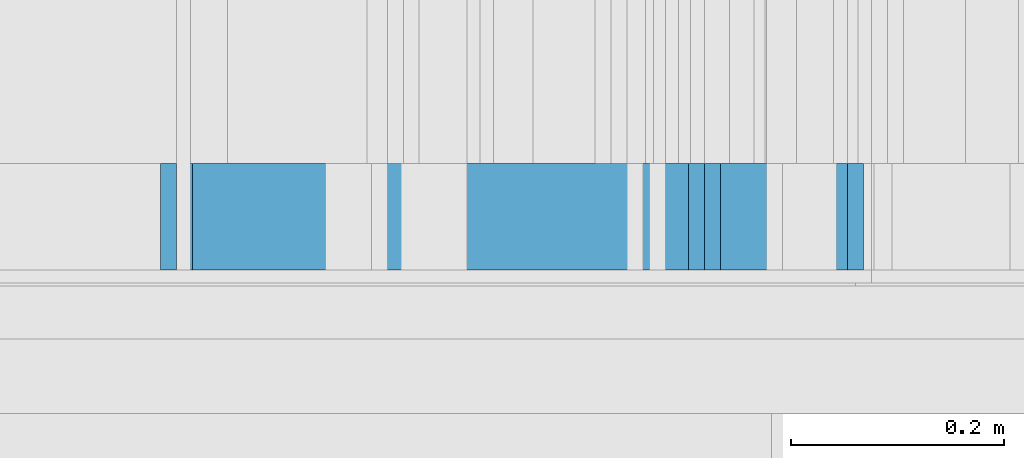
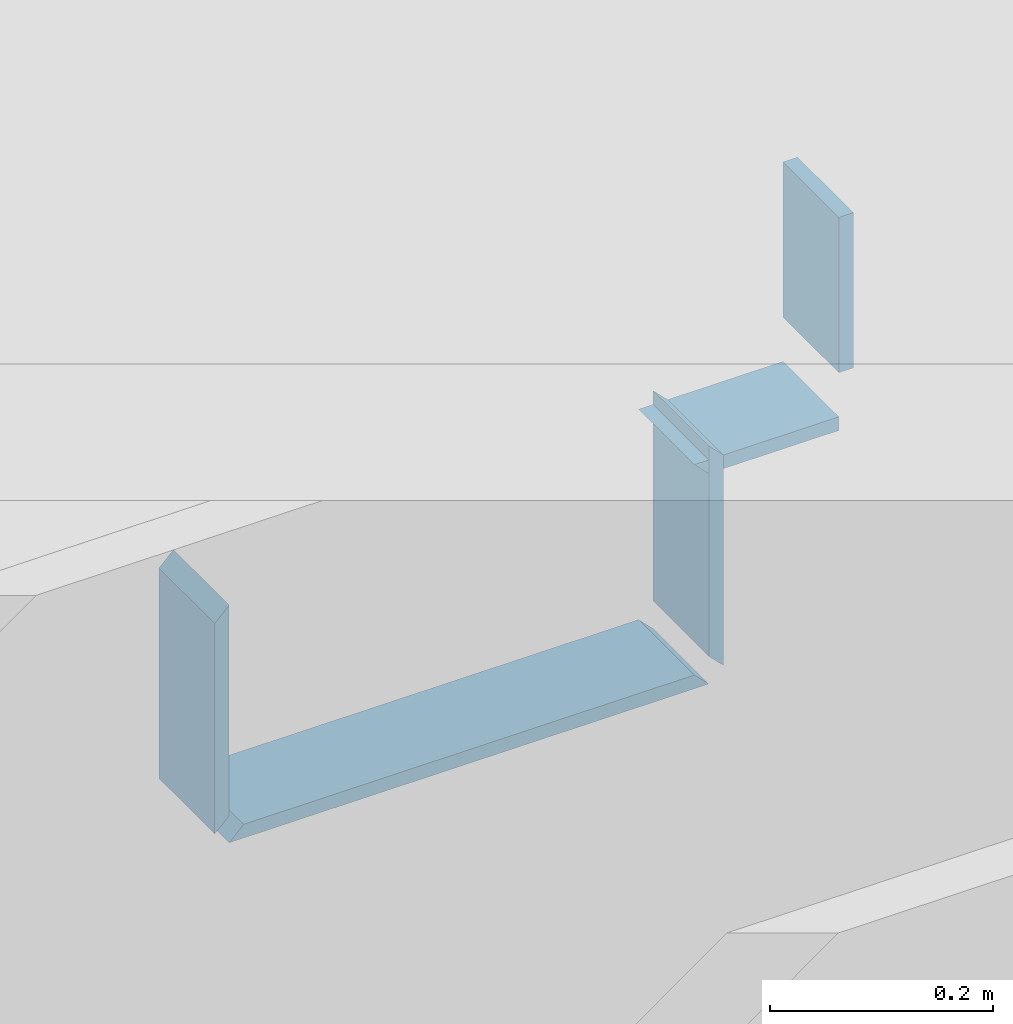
# One storey, part 180 of 583: 5 building element parts, 5 elements without a shape of their own.
"""IFC2X3 building model written with IfcOpenShell, lengths in metres."""

import ifcopenshell
import ifcopenshell.guid

model = None  # the IFC model being written
_history = None  # IfcOwnerHistory: only IFC2X3 demands one
_inside = {}  # id of a spatial element -> (the spatial element, [elements in it])
_under = {}  # id of a project, library or spatial element -> (it, [spatial elements below it])
_declared = {}  # id of a project -> (the project, [libraries it declares])
_typed = {}  # id of a type object -> (the type object, [elements of that type])
_made_of = {}  # id of a material, layer set ... -> (it, [elements and type objects made of it])


def new_model(schema):
    """Start an empty IFC model of exactly this schema.

    Asked for "IFC4X3", IfcOpenShell would pick the latest addendum, in which some entities
    have other attributes; the version numbers below select the first issue.
    IFC2X3 requires an IfcOwnerHistory on every rooted entity: one is made here for all.
    """
    global model, _history
    if schema == "IFC4X3":
        model = ifcopenshell.file(schema_version=(4, 3, 0, 0))
    else:
        model = ifcopenshell.file(schema=schema)
    _inside.clear()
    _under.clear()
    _declared.clear()
    _typed.clear()
    _made_of.clear()
    _history = None
    if model.schema == "IFC2X3":
        org = make("IfcOrganization", Name="unknown")
        user = make(
            "IfcPersonAndOrganization",
            ThePerson=make("IfcPerson", FamilyName="unknown"),
            TheOrganization=org,
        )
        app = make(
            "IfcApplication",
            ApplicationDeveloper=org,
            Version="unknown",
            ApplicationFullName="unknown",
            ApplicationIdentifier="unknown",
        )
        _history = make(
            "IfcOwnerHistory",
            OwningUser=user,
            OwningApplication=app,
            ChangeAction="ADDED",
            CreationDate=0,
        )
    return model


def make(cls, **values):
    """One entity of the class cls with the attributes given. An attribute that is None is left unset."""
    return model.create_entity(
        cls, **{name: value for name, value in values.items() if value is not None}
    )


def entity(cls, *values):
    """Any entity or typed value of the class cls, its attributes in the order of the schema. None: left unset."""
    e = model.create_entity(cls)
    for i, value in enumerate(values):
        if value is not None:
            e[i] = value
    return e


def rooted(cls, **values):
    """An entity with a GlobalId (a new one), such as an element, a storey or a relation."""
    return make(cls, GlobalId=ifcopenshell.guid.new(), OwnerHistory=_history, **values)


def si_unit(unit_type, name, prefix=None):
    """IfcSIUnit, for example si_unit("LENGTHUNIT", "METRE", prefix="MILLI")."""
    return make("IfcSIUnit", UnitType=unit_type, Prefix=prefix, Name=name)


def converted_unit(unit_type, name, factor, base, dimensions=None, offset=None):
    """IfcConversionBasedUnit, such as the inch: factor (a typed value) times the base unit."""
    return make(
        "IfcConversionBasedUnit"
        if offset is None
        else "IfcConversionBasedUnitWithOffset",
        ConversionOffset=offset,
        Dimensions=None
        if dimensions is None
        else entity("IfcDimensionalExponents", *dimensions),
        UnitType=unit_type,
        Name=name,
        ConversionFactor=make(
            "IfcMeasureWithUnit", ValueComponent=factor, UnitComponent=base
        ),
    )


def derived_unit(unit_type, elements):
    """IfcDerivedUnit: a product of units, each with its exponent."""
    return make(
        "IfcDerivedUnit",
        Elements=[
            make("IfcDerivedUnitElement", Unit=unit, Exponent=power)
            for unit, power in elements
        ],
        UnitType=unit_type,
    )


def money_unit(currency):
    """IfcMonetaryUnit."""
    return make("IfcMonetaryUnit", Currency=currency)


def assignment(units):
    """IfcUnitAssignment: the units of a project."""
    return None if units is None else make("IfcUnitAssignment", Units=units)


def point(xyz):
    """IfcCartesianPoint."""
    return None if xyz is None else make("IfcCartesianPoint", Coordinates=xyz)


def direction(xyz):
    """IfcDirection."""
    return None if xyz is None else make("IfcDirection", DirectionRatios=xyz)


def frame(location, z_axis=None, x_axis=None):
    """IfcAxis2Placement3D, a coordinate frame: its origin and axes. An axis left out is left unset."""
    return make(
        "IfcAxis2Placement3D",
        Location=point(location),
        Axis=direction(z_axis),
        RefDirection=direction(x_axis),
    )


def frame_2d(location, x_axis=None):
    """IfcAxis2Placement2D, a coordinate frame in the plane: its origin and x axis."""
    return make(
        "IfcAxis2Placement2D", Location=point(location), RefDirection=direction(x_axis)
    )


def origin_with_axes():
    """The frame at (0, 0, 0) with the z axis (0, 0, 1) and the x axis (1, 0, 0) written out."""
    return frame((0.0, 0.0, 0.0), z_axis=(0.0, 0.0, 1.0), x_axis=(1.0, 0.0, 0.0))


def place(relative_to, where):
    """IfcLocalPlacement: puts the frame where relative to a parent placement (None: the world)."""
    return make(
        "IfcLocalPlacement", PlacementRelTo=relative_to, RelativePlacement=where
    )


def context(
    kind, dimensions, precision=None, world=None, true_north=None, identifier=None
):
    """IfcGeometricRepresentationContext, for example the 3D "Model" context."""
    return make(
        "IfcGeometricRepresentationContext",
        ContextIdentifier=identifier,
        ContextType=kind,
        CoordinateSpaceDimension=dimensions,
        Precision=precision,
        WorldCoordinateSystem=world,
        TrueNorth=true_north,
    )


def subcontext(parent, identifier, kind, view, scale=None):
    """IfcGeometricRepresentationSubContext, for example "Body" below "Model"."""
    return make(
        "IfcGeometricRepresentationSubContext",
        ContextIdentifier=identifier,
        ContextType=kind,
        ParentContext=parent,
        TargetScale=scale,
        TargetView=view,
    )


def project(units=None, contexts=None):
    """IfcProject with its units and contexts."""
    return rooted(
        "IfcProject",
        Name="project",
        RepresentationContexts=contexts,
        UnitsInContext=assignment(units),
    )


def spatial(cls, under=None, at=None, **own):
    """A site, building, storey or space (cls), placed at a placement, below another one or the project."""
    s = rooted(cls, ObjectPlacement=at, **own)
    if under is not None:
        _under.setdefault(under.id(), (under, []))[1].append(s)
    return s


def polyline(points):
    """IfcPolyline through the points."""
    return make("IfcPolyline", Points=[point(p) for p in points])


def profile(cls, at=None, kind="AREA", **sizes):
    """A parametric profile (cls). Its sizes go by their IFC names, for example OverallWidth=200.0."""
    return make(cls, ProfileType=kind, Position=at, **sizes)


def rectangle(**sizes):
    """IfcRectangleProfileDef."""
    return profile("IfcRectangleProfileDef", **sizes)


def outline(outer, holes=None, kind="AREA"):
    """IfcArbitraryClosedProfileDef: a profile drawn as a closed curve; with holes, ...WithVoids."""
    if holes is None:
        return make("IfcArbitraryClosedProfileDef", ProfileType=kind, OuterCurve=outer)
    return make(
        "IfcArbitraryProfileDefWithVoids",
        ProfileType=kind,
        OuterCurve=outer,
        InnerCurves=holes,
    )


def extrude(swept, where, along, depth):
    """IfcExtrudedAreaSolid: the profile swept, set in the frame where, extruded along a direction by depth."""
    return make(
        "IfcExtrudedAreaSolid",
        SweptArea=swept,
        Position=where,
        ExtrudedDirection=direction(along),
        Depth=depth,
    )


def shape(context_of_items, identifier, shape_type, items):
    """IfcShapeRepresentation: the items that make up one representation, for example the "Body"."""
    return make(
        "IfcShapeRepresentation",
        ContextOfItems=context_of_items,
        RepresentationIdentifier=identifier,
        RepresentationType=shape_type,
        Items=items,
    )


def material(Name=None, Category=None):
    """IfcMaterial."""
    return make("IfcMaterial", Name=Name, Category=Category)


def made_of(thing, what):
    """Note that an element or type object is made of a material, layer set ...; save() writes the relation."""
    if what is not None:
        _made_of.setdefault(what.id(), (what, []))[1].append(thing)
    return thing


def type_object(cls, material=None, **own):
    """A type object (cls), such as IfcWallType, which elements share."""
    return made_of(rooted(cls, **own), material)


def element(
    cls,
    number,
    at=None,
    inside=None,
    cuts=None,
    type_object=None,
    material=None,
    context=None,
    identifier="Body",
    shape_type=None,
    held_by="IfcProductDefinitionShape",
    body=None,
    shapes=None,
    **own,
):
    """One element of the class cls, such as IfcWall. Its Tag is "e" and its number.

    at: its placement. inside: the storey or other place that contains it. cuts: it is an
    opening in that element (IfcRelVoidsElement). A single representation is given by context,
    identifier, shape_type and body (its items); several are given by shapes. held_by: the class
    of the entity that holds the representations. save() writes the other relations.
    """
    e = rooted(cls, Tag="e%d" % number, ObjectPlacement=at, **own)
    if body is not None:
        shapes = [shape(context, identifier, shape_type, body)]
    if shapes is not None:
        e.Representation = make(held_by, Representations=shapes)
    if inside is not None:
        _inside.setdefault(inside.id(), (inside, []))[1].append(e)
    if cuts is not None:
        rooted(
            "IfcRelVoidsElement", RelatingBuildingElement=cuts, RelatedOpeningElement=e
        )
    if type_object is not None:
        _typed.setdefault(type_object.id(), (type_object, []))[1].append(e)
    return made_of(e, material)


def aggregate(whole, parts):
    """IfcRelAggregates: a whole, such as a stair, and the parts it consists of."""
    return rooted("IfcRelAggregates", RelatingObject=whole, RelatedObjects=parts)


def save(model, path):
    """Write the relations noted so far, then the file.

    IfcRelAggregates (storeys below a building ...), IfcRelContainedInSpatialStructure (elements
    in a storey), IfcRelDefinesByType, IfcRelAssociatesMaterial and IfcRelDeclares: one each for
    every whole, place, type object, material and project.
    """
    for whole, parts in _under.values():
        aggregate(whole, parts)
    for where, things in _inside.values():
        rooted(
            "IfcRelContainedInSpatialStructure",
            RelatedElements=things,
            RelatingStructure=where,
        )
    for kind, things in _typed.values():
        rooted("IfcRelDefinesByType", RelatedObjects=things, RelatingType=kind)
    for what, things in _made_of.values():
        rooted("IfcRelAssociatesMaterial", RelatedObjects=things, RelatingMaterial=what)
    for by, libraries in _declared.values():
        rooted("IfcRelDeclares", RelatingContext=by, RelatedDefinitions=libraries)
    model.write(path)


model = new_model("IFC2X3")

# Units and contexts
model_context = context("Model", 3, precision=1e-05, world=origin_with_axes(), true_north=direction((0.0, 1.0)))
body_context = subcontext(model_context, "Body", "Model", "MODEL_VIEW", scale=1.0)
ifc_project = project(units=[si_unit("LENGTHUNIT", "METRE"), si_unit("AREAUNIT", "SQUARE_METRE"), si_unit("VOLUMEUNIT", "CUBIC_METRE"), si_unit("ABSORBEDDOSEUNIT", "GRAY"), si_unit("AMOUNTOFSUBSTANCEUNIT", "MOLE"), si_unit("DOSEEQUIVALENTUNIT", "SIEVERT"), si_unit("ELECTRICCAPACITANCEUNIT", "FARAD"), si_unit("ELECTRICCHARGEUNIT", "COULOMB"), si_unit("ELECTRICCONDUCTANCEUNIT", "SIEMENS"), si_unit("ELECTRICCURRENTUNIT", "AMPERE"), si_unit("ELECTRICRESISTANCEUNIT", "OHM"), si_unit("ELECTRICVOLTAGEUNIT", "VOLT"), si_unit("ENERGYUNIT", "JOULE"), si_unit("FORCEUNIT", "NEWTON"), si_unit("FREQUENCYUNIT", "HERTZ"), si_unit("ILLUMINANCEUNIT", "LUX"), si_unit("INDUCTANCEUNIT", "HENRY"), si_unit("LUMINOUSFLUXUNIT", "LUMEN"), si_unit("LUMINOUSINTENSITYUNIT", "CANDELA"), si_unit("MAGNETICFLUXDENSITYUNIT", "TESLA"), si_unit("MAGNETICFLUXUNIT", "WEBER"), si_unit("MASSUNIT", "GRAM"), converted_unit("PLANEANGLEUNIT", "degree", entity("IfcReal", 0.0174532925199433), si_unit("PLANEANGLEUNIT", "RADIAN"), dimensions=[0, 0, 0, 0, 0, 0, 0]), si_unit("POWERUNIT", "WATT"), si_unit("PRESSUREUNIT", "PASCAL"), si_unit("RADIOACTIVITYUNIT", "BECQUEREL"), si_unit("SOLIDANGLEUNIT", "STERADIAN"), si_unit("THERMODYNAMICTEMPERATUREUNIT", "KELVIN"), si_unit("TIMEUNIT", "SECOND"), derived_unit("ACCELERATIONUNIT", [(si_unit("LENGTHUNIT", "METRE"), 1), (si_unit("TIMEUNIT", "SECOND"), -2)]), derived_unit("ANGULARVELOCITYUNIT", [(converted_unit("PLANEANGLEUNIT", "degree", entity("IfcReal", 0.0174532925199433), si_unit("PLANEANGLEUNIT", "RADIAN"), dimensions=[0, 0, 0, 0, 0, 0, 0]), 1), (si_unit("TIMEUNIT", "SECOND"), -1)]), derived_unit("CURVATUREUNIT", [(converted_unit("PLANEANGLEUNIT", "degree", entity("IfcReal", 0.0174532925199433), si_unit("PLANEANGLEUNIT", "RADIAN"), dimensions=[0, 0, 0, 0, 0, 0, 0]), 1), (si_unit("LENGTHUNIT", "METRE"), -1)]), derived_unit("DYNAMICVISCOSITYUNIT", [(si_unit("PRESSUREUNIT", "PASCAL"), 1), (si_unit("TIMEUNIT", "SECOND"), 1)]), derived_unit("HEATFLUXDENSITYUNIT", [(si_unit("POWERUNIT", "WATT"), 1), (si_unit("LENGTHUNIT", "METRE"), -2)]), derived_unit("HEATINGVALUEUNIT", [(si_unit("ENERGYUNIT", "JOULE"), 1), (si_unit("MASSUNIT", "GRAM"), -1)]), derived_unit("INTEGERCOUNTRATEUNIT", [(si_unit("TIMEUNIT", "SECOND"), -1)]), derived_unit("IONCONCENTRATIONUNIT", [(si_unit("MASSUNIT", "GRAM"), 1), (si_unit("VOLUMEUNIT", "CUBIC_METRE"), -1)]), derived_unit("ISOTHERMALMOISTURECAPACITYUNIT", [(si_unit("VOLUMEUNIT", "CUBIC_METRE"), 1), (si_unit("MASSUNIT", "GRAM"), -1)]), derived_unit("KINEMATICVISCOSITYUNIT", [(si_unit("AREAUNIT", "SQUARE_METRE"), 1), (si_unit("TIMEUNIT", "SECOND"), -1)]), derived_unit("LINEARFORCEUNIT", [(si_unit("FORCEUNIT", "NEWTON"), 1), (si_unit("LENGTHUNIT", "METRE"), -1)]), derived_unit("LINEARMOMENTUNIT", [(si_unit("FORCEUNIT", "NEWTON"), 1), (si_unit("LENGTHUNIT", "METRE"), -1)]), derived_unit("LINEARSTIFFNESSUNIT", [(si_unit("FORCEUNIT", "NEWTON"), 1), (si_unit("LENGTHUNIT", "METRE"), -1)]), derived_unit("LINEARVELOCITYUNIT", [(si_unit("LENGTHUNIT", "METRE"), 1), (si_unit("TIMEUNIT", "SECOND"), -1)]), derived_unit("LUMINOUSINTENSITYDISTRIBUTIONUNIT", [(si_unit("LUMINOUSINTENSITYUNIT", "CANDELA"), 1), (si_unit("LUMINOUSFLUXUNIT", "LUMEN"), -1)]), derived_unit("MASSDENSITYUNIT", [(si_unit("MASSUNIT", "GRAM"), 1), (si_unit("VOLUMEUNIT", "CUBIC_METRE"), -1)]), derived_unit("MASSFLOWRATEUNIT", [(si_unit("MASSUNIT", "GRAM"), 1), (si_unit("TIMEUNIT", "SECOND"), -1)]), derived_unit("MASSPERLENGTHUNIT", [(si_unit("MASSUNIT", "GRAM"), 1), (si_unit("LENGTHUNIT", "METRE"), -1)]), derived_unit("MODULUSOFELASTICITYUNIT", [(si_unit("FORCEUNIT", "NEWTON"), 1), (si_unit("AREAUNIT", "SQUARE_METRE"), -1)]), derived_unit("MODULUSOFLINEARSUBGRADEREACTIONUNIT", [(si_unit("FORCEUNIT", "NEWTON"), 1), (si_unit("LENGTHUNIT", "METRE"), -2)]), derived_unit("MODULUSOFROTATIONALSUBGRADEREACTIONUNIT", [(si_unit("FORCEUNIT", "NEWTON"), 1), (si_unit("LENGTHUNIT", "METRE"), 1)]), derived_unit("MODULUSOFSUBGRADEREACTIONUNIT", [(si_unit("FORCEUNIT", "NEWTON"), 1), (si_unit("VOLUMEUNIT", "CUBIC_METRE"), -1)]), derived_unit("MOISTUREDIFFUSIVITYUNIT", [(si_unit("VOLUMEUNIT", "CUBIC_METRE"), 1), (si_unit("TIMEUNIT", "SECOND"), -1)]), derived_unit("MOLECULARWEIGHTUNIT", [(si_unit("MASSUNIT", "GRAM"), 1), (si_unit("AMOUNTOFSUBSTANCEUNIT", "MOLE"), -1)]), derived_unit("PLANARFORCEUNIT", [(si_unit("FORCEUNIT", "NEWTON"), 1), (si_unit("LENGTHUNIT", "METRE"), -2)]), derived_unit("ROTATIONALFREQUENCYUNIT", [(si_unit("TIMEUNIT", "SECOND"), -1)]), derived_unit("ROTATIONALMASSUNIT", [(si_unit("MASSUNIT", "GRAM"), 1), (si_unit("LENGTHUNIT", "METRE"), 2)]), derived_unit("ROTATIONALSTIFFNESSUNIT", [(si_unit("FORCEUNIT", "NEWTON"), 1), (si_unit("LENGTHUNIT", "METRE"), 1), (converted_unit("PLANEANGLEUNIT", "degree", entity("IfcReal", 0.0174532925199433), si_unit("PLANEANGLEUNIT", "RADIAN"), dimensions=[0, 0, 0, 0, 0, 0, 0]), -1)]), derived_unit("SECTIONAREAINTEGRALUNIT", [(si_unit("LENGTHUNIT", "METRE"), 5)]), derived_unit("SECTIONMODULUSUNIT", [(si_unit("LENGTHUNIT", "METRE"), 3)]), derived_unit("SHEARMODULUSUNIT", [(si_unit("FORCEUNIT", "NEWTON"), 1), (si_unit("AREAUNIT", "SQUARE_METRE"), -1)]), derived_unit("SOUNDPOWERUNIT", [(si_unit("ENERGYUNIT", "JOULE"), 1), (si_unit("TIMEUNIT", "SECOND"), -1)]), derived_unit("SPECIFICHEATCAPACITYUNIT", [(si_unit("FORCEUNIT", "NEWTON"), 1), (si_unit("MASSUNIT", "GRAM"), -1), (si_unit("THERMODYNAMICTEMPERATUREUNIT", "KELVIN"), -1)]), derived_unit("TEMPERATUREGRADIENTUNIT", [(si_unit("THERMODYNAMICTEMPERATUREUNIT", "KELVIN"), 1), (si_unit("LENGTHUNIT", "METRE"), -1)]), derived_unit("THERMALADMITTANCEUNIT", [(si_unit("POWERUNIT", "WATT"), 1), (si_unit("AREAUNIT", "SQUARE_METRE"), -1), (si_unit("THERMODYNAMICTEMPERATUREUNIT", "KELVIN"), -1)]), derived_unit("THERMALCONDUCTANCEUNIT", [(si_unit("POWERUNIT", "WATT"), 1), (si_unit("LENGTHUNIT", "METRE"), -1), (si_unit("THERMODYNAMICTEMPERATUREUNIT", "KELVIN"), -1)]), derived_unit("THERMALEXPANSIONCOEFFICIENTUNIT", [(si_unit("THERMODYNAMICTEMPERATUREUNIT", "KELVIN"), -1)]), derived_unit("THERMALRESISTANCEUNIT", [(si_unit("AREAUNIT", "SQUARE_METRE"), 1), (si_unit("POWERUNIT", "WATT"), -1)]), derived_unit("THERMALTRANSMITTANCEUNIT", [(si_unit("POWERUNIT", "WATT"), 1), (si_unit("AREAUNIT", "SQUARE_METRE"), -1), (si_unit("THERMODYNAMICTEMPERATUREUNIT", "KELVIN"), -1)]), derived_unit("TORQUEUNIT", [(si_unit("FORCEUNIT", "NEWTON"), 1), (si_unit("LENGTHUNIT", "METRE"), 1)]), derived_unit("VAPORPERMEABILITYUNIT", [(si_unit("MASSUNIT", "GRAM"), 1), (si_unit("TIMEUNIT", "SECOND"), -1)]), derived_unit("VOLUMETRICFLOWRATEUNIT", [(si_unit("VOLUMEUNIT", "CUBIC_METRE"), 1), (si_unit("TIMEUNIT", "SECOND"), -1)]), derived_unit("WARPINGCONSTANTUNIT", [(si_unit("LENGTHUNIT", "METRE"), 6)]), derived_unit("WARPINGMOMENTUNIT", [(si_unit("FORCEUNIT", "NEWTON"), 1), (si_unit("LENGTHUNIT", "METRE"), 2)]), money_unit("GBP")], contexts=[model_context])

# Site, building, storey
site_placement = place(None, origin_with_axes())
site = spatial("IfcSite", under=ifc_project, at=site_placement, Name="Site", CompositionType="ELEMENT")
building_placement = place(site_placement, origin_with_axes())
building = spatial("IfcBuilding", under=site, at=building_placement, Name="Building01", CompositionType="ELEMENT")
storey_placement = place(building_placement, frame((0.0, 0.0, 20.78), z_axis=(0.0, 0.0, 1.0), x_axis=(1.0, 0.0, 0.0)))
storey = spatial("IfcBuildingStorey", under=building, at=storey_placement, Name="RL", CompositionType="ELEMENT", Elevation=20.78)

# Wall, building element part
wall_type = type_object("IfcWallType", Name="SHE_A-Walls_Type06d_ExternalWallInsulation_48mm", PredefinedType="NOTDEFINED")
wall_1_placement = place(storey_placement, frame((6.1, 5.15, 5.93), z_axis=(0.0, 1.0, 0.0), x_axis=(0.0, 0.0, -1.0)))
wall_1 = element("IfcWall", 1, at=wall_1_placement, inside=storey, type_object=wall_type, Name="6D", ObjectType="SHE_A-Walls_Type06d_ExternalWallInsulation_48mm")
ifc_material = material(Name="A_BSUK_Walls_Timber")
building_element_part_1_placement = place(wall_1_placement, origin_with_axes())
building_element_part_1 = element("IfcBuildingElementPart", 2, at=building_element_part_1_placement, material=ifc_material, Name="2", context=body_context, shape_type="SweptSolid", body=[
    extrude(outline(polyline([(0.278, 0.063), (0.048, 0.063), (0.033, 0.048), (0.263, 0.048), (0.278, 0.063)])), frame((0.0, 0.0, 0.015), z_axis=(0.0, 0.0, 1.0), x_axis=(1.0, 0.0, 0.0)), (0.0, 0.0, 1.0), 0.1),
])
aggregate(wall_1, [building_element_part_1])

wall_2_placement = place(storey_placement, frame((6.064, 5.15, 5.7), z_axis=(0.0, 1.0, 0.0), x_axis=(1.0, 0.0, 0.0)))
wall_2 = element("IfcWall", 3, at=wall_2_placement, inside=storey, type_object=wall_type, Name="6D", ObjectType="SHE_A-Walls_Type06d_ExternalWallInsulation_48mm")
building_element_part_2_placement = place(wall_2_placement, origin_with_axes())
building_element_part_2 = element("IfcBuildingElementPart", 4, at=building_element_part_2_placement, material=ifc_material, Name="2", context=body_context, shape_type="SweptSolid", body=[
    extrude(outline(polyline([(0.484, 0.063), (-0.012, 0.063), (0.003, 0.048), (0.469, 0.048), (0.484, 0.063)])), frame((0.0, 0.0, 0.015), z_axis=(0.0, 0.0, 1.0), x_axis=(1.0, 0.0, 0.0)), (0.0, 0.0, 1.0), 0.1),
])
aggregate(wall_2, [building_element_part_2])

wall_3_placement = place(storey_placement, frame((6.5, 5.15, 5.7), z_axis=(0.0, 1.0, 0.0), x_axis=(0.0, 0.0, 1.0)))
wall_3 = element("IfcWall", 5, at=wall_3_placement, inside=storey, type_object=wall_type, Name="6D", ObjectType="SHE_A-Walls_Type06d_ExternalWallInsulation_48mm")
building_element_part_3_placement = place(wall_3_placement, origin_with_axes())
building_element_part_3 = element("IfcBuildingElementPart", 6, at=building_element_part_3_placement, material=ifc_material, Name="2", context=body_context, shape_type="SweptSolid", body=[
    extrude(outline(polyline([(0.182, 0.063), (-0.048, 0.063), (-0.033, 0.048), (0.197, 0.048), (0.182, 0.063)])), frame((0.0, 0.0, 0.015), z_axis=(0.0, 0.0, 1.0), x_axis=(1.0, 0.0, 0.0)), (0.0, 0.0, 1.0), 0.1),
])
aggregate(wall_3, [building_element_part_3])

wall_4_placement = place(storey_placement, frame((6.5, 5.15, 5.93), z_axis=(0.0, 1.0, 0.0), x_axis=(1.0, 0.0, 0.0)))
wall_4 = element("IfcWall", 7, at=wall_4_placement, inside=storey, type_object=wall_type, Name="6D", ObjectType="SHE_A-Walls_Type06d_ExternalWallInsulation_48mm")
building_element_part_4_placement = place(wall_4_placement, origin_with_axes())
building_element_part_4 = element("IfcBuildingElementPart", 8, at=building_element_part_4_placement, material=ifc_material, Name="2", context=body_context, shape_type="SweptSolid", body=[
    extrude(outline(polyline([(0.048, 0.063), (0.033, 0.048), (0.182326, 0.048), (0.182326, 0.063), (0.048, 0.063)])), frame((0.0, 0.0, 0.015), z_axis=(0.0, 0.0, 1.0), x_axis=(1.0, 0.0, 0.0)), (0.0, 0.0, 1.0), 0.1),
])
aggregate(wall_4, [building_element_part_4])

wall_5_placement = place(storey_placement, frame((6.634304, 5.15, 5.894), z_axis=(0.0, 1.0, 0.0), x_axis=(0.0, 0.0, 1.0)))
wall_5 = element("IfcWall", 9, at=wall_5_placement, inside=storey, type_object=wall_type, Name="6D", ObjectType="SHE_A-Walls_Type06d_ExternalWallInsulation_48mm")
building_element_part_5_placement = place(wall_5_placement, origin_with_axes())
building_element_part_5 = element("IfcBuildingElementPart", 10, at=building_element_part_5_placement, material=ifc_material, Name="2", context=body_context, shape_type="SweptSolid", body=[
    extrude(rectangle(XDim=0.169791, YDim=0.015, at=frame_2d((0.121104, 0.0555), x_axis=(1.0, 0.0))), frame((0.0, 0.0, 0.015), z_axis=(0.0, 0.0, 1.0), x_axis=(1.0, 0.0, 0.0)), (0.0, 0.0, 1.0), 0.1),
])
aggregate(wall_5, [building_element_part_5])

save(model, "model.ifc")
